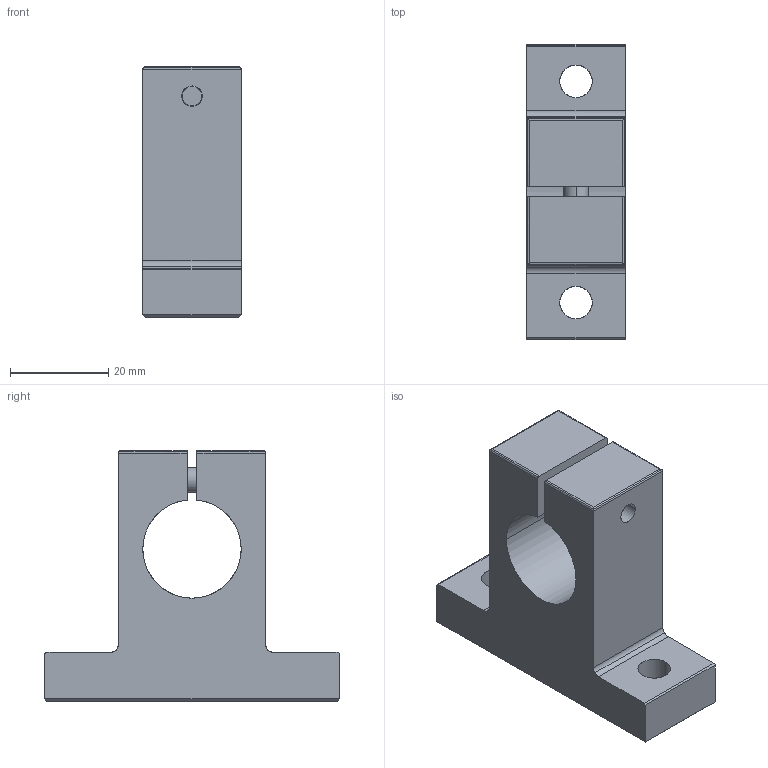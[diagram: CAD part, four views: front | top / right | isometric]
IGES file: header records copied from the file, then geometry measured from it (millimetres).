
Global section: file name: No Iges File Name specified; native system: AutoDesk Inventor R10; preprocessor: AutoDesk Inventor Iges Exporter R10; author: No Author specified; organization: No Organization specified; date: 20101214.153104; units: millimetre
Bounding box: 20 x 60 x 51 mm (x, y, z)
Surface area: 9853.9 mm2 (no closed solid volume)
Topology: 0 solids, 0 shells, 69 faces, 410 edges, 408 vertices
Faces by surface type: bspline 69
